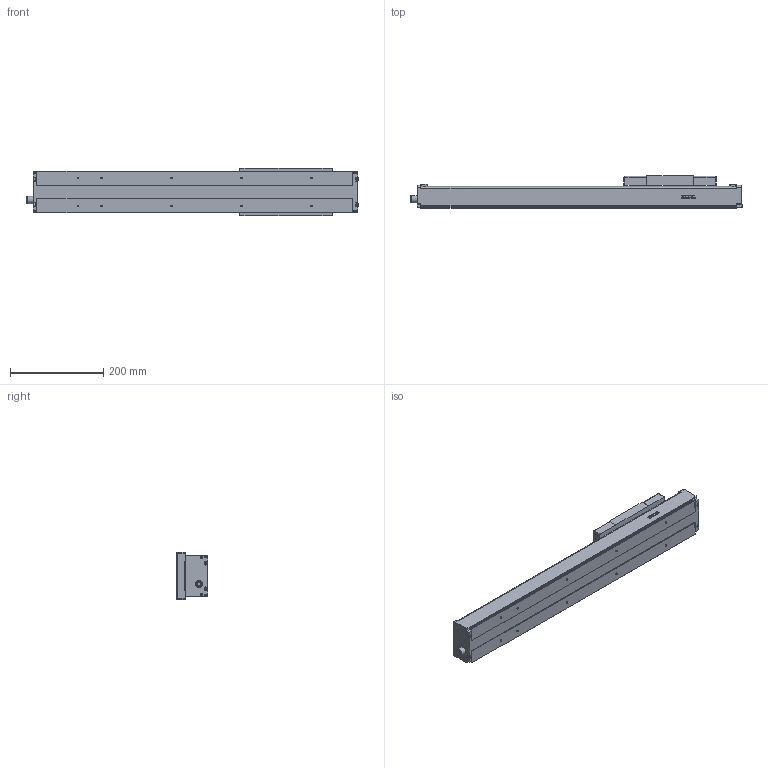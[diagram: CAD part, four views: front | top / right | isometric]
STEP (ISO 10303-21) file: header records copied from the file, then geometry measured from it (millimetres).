
FILE_DESCRIPTION(/* description */ (''),/* implementation_level */ '2;1');
FILE_NAME(/* name */ 'D:\混合母檔20191031\混和母檔\混和母檔\bin\Debug\Download\3D\KS90-5C-400AF0\KS90-5C-400AF0.stp',/* time_stamp */ '2019-11-04T14:35:23+08:00',/* author */ ('user'),/* organization */ (''),/* preprocessor_version */ 'ST-DEVELOPER v16.13',/* originating_system */ 'Autodesk Inventor 2018',/* authorisation */ '');
FILE_SCHEMA (('AUTOMOTIVE_DESIGN { 1 0 10303 214 3 1 1 }'));
Length unit declared in the file: millimetre
Products named in the file (3): KS90-5C-400AF0; KS90-F0; KS90-SL
Assembly tree (2 placements, depth 2):
  KS90-5C-400AF0
    KS90-F0
    KS90-SL
Bounding box: 711.6 x 68.5 x 102.4 mm (x, y, z)
Volume: 1215764.2 mm3; surface area: 463833.3 mm2
Topology: 3 solids, 13 shells, 1017 faces, 2790 edges, 1842 vertices
Faces by surface type: plane 563, cylinder 146, bspline 136, cone 120, torus 48, sphere 4
Full cylindrical faces by diameter (mm): 2.113 x2, 2.459 x8, 2.5 x4, 2.693 x8, 3 x12, 3.242 x6, 3.5 x8, 4 x7, 4.134 x10, 4.5 x8, 4.917 x4, 5.5 x12, 6 x3, 7 x4, 8 x2, 10.437 x1, 11 x1, 11.5 x1, 14 x1, 15.538 x1, 28 x1, 30 x1
Entity records: 37861 total; most frequent: CARTESIAN_POINT 14048, ORIENTED_EDGE 5014, DIRECTION 4448, EDGE_CURVE 2507, VERTEX_POINT 1729, LINE 1498, VECTOR 1498, AXIS2_PLACEMENT_3D 1475
